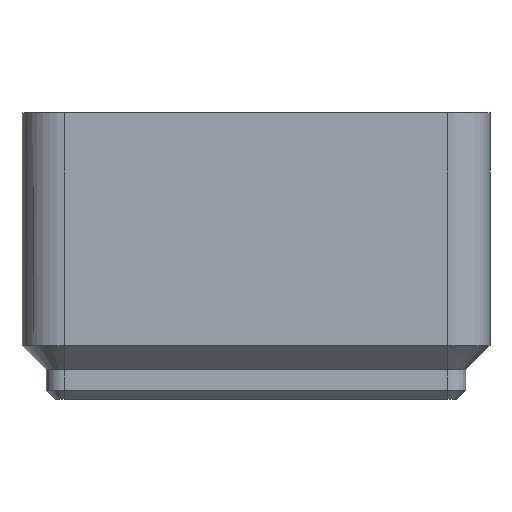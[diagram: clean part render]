
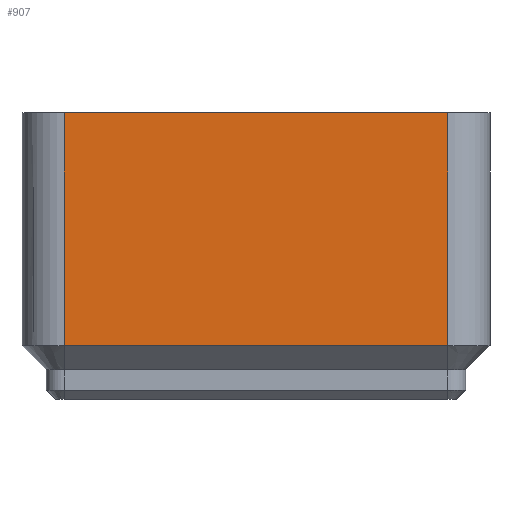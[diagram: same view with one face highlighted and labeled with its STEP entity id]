
A CAD part, left-side view. The second image highlights one B-rep face of the part: STEP entity #907.
In plain terms, the highlighted planar face has unit normal (-1, 0, 0).
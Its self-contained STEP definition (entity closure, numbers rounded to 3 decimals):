
#100 = PLANE('',#101);
#101 = AXIS2_PLACEMENT_3D('',#102,#103,#104);
#102 = CARTESIAN_POINT('',(-19.675,-17.,3.675));
#103 = DIRECTION('',(0.707,0.,0.707)
  );
#104 = DIRECTION('',(0.,-1.,0.));
#307 = VERTEX_POINT('',#308);
#308 = CARTESIAN_POINT('',(-20.75,-17.,4.75));
#332 = EDGE_CURVE('',#307,#333,#335,.T.);
#333 = VERTEX_POINT('',#334);
#334 = CARTESIAN_POINT('',(-20.75,17.,4.75));
#335 = SURFACE_CURVE('',#336,(#340,#347),.PCURVE_S1.);
#336 = LINE('',#337,#338);
#337 = CARTESIAN_POINT('',(-20.75,-17.,4.75));
#338 = VECTOR('',#339,1.);
#339 = DIRECTION('',(0.,1.,0.));
#340 = PCURVE('',#100,#341);
#341 = DEFINITIONAL_REPRESENTATION('',(#342),#346);
#342 = LINE('',#343,#344);
#343 = CARTESIAN_POINT('',(-0.,-1.52));
#344 = VECTOR('',#345,1.);
#345 = DIRECTION('',(-1.,0.));
#346 = ( GEOMETRIC_REPRESENTATION_CONTEXT(2) 
PARAMETRIC_REPRESENTATION_CONTEXT() REPRESENTATION_CONTEXT('2D SPACE',''
  ) );
#347 = PCURVE('',#348,#353);
#348 = PLANE('',#349);
#349 = AXIS2_PLACEMENT_3D('',#350,#351,#352);
#350 = CARTESIAN_POINT('',(-20.75,-17.,2.6));
#351 = DIRECTION('',(-1.,0.,0.));
#352 = DIRECTION('',(0.,1.,0.));
#353 = DEFINITIONAL_REPRESENTATION('',(#354),#358);
#354 = LINE('',#355,#356);
#355 = CARTESIAN_POINT('',(0.,-2.15));
#356 = VECTOR('',#357,1.);
#357 = DIRECTION('',(1.,0.));
#358 = ( GEOMETRIC_REPRESENTATION_CONTEXT(2) 
PARAMETRIC_REPRESENTATION_CONTEXT() REPRESENTATION_CONTEXT('2D SPACE',''
  ) );
#737 = CYLINDRICAL_SURFACE('',#738,3.75);
#738 = AXIS2_PLACEMENT_3D('',#739,#740,#741);
#739 = CARTESIAN_POINT('',(-17.,17.,2.6));
#740 = DIRECTION('',(0.,0.,-1.));
#741 = DIRECTION('',(-1.,0.,0.));
#894 = CYLINDRICAL_SURFACE('',#895,3.75);
#895 = AXIS2_PLACEMENT_3D('',#896,#897,#898);
#896 = CARTESIAN_POINT('',(-17.,-17.,2.6));
#897 = DIRECTION('',(0.,0.,-1.));
#898 = DIRECTION('',(-1.,0.,0.));
#907 = ADVANCED_FACE('',(#908),#348,.T.);
#908 = FACE_BOUND('',#909,.T.);
#909 = EDGE_LOOP('',(#910,#911,#934,#962));
#910 = ORIENTED_EDGE('',*,*,#332,.F.);
#911 = ORIENTED_EDGE('',*,*,#912,.T.);
#912 = EDGE_CURVE('',#307,#913,#915,.T.);
#913 = VERTEX_POINT('',#914);
#914 = CARTESIAN_POINT('',(-20.75,-17.,25.4));
#915 = SURFACE_CURVE('',#916,(#920,#927),.PCURVE_S1.);
#916 = LINE('',#917,#918);
#917 = CARTESIAN_POINT('',(-20.75,-17.,4.75));
#918 = VECTOR('',#919,1.);
#919 = DIRECTION('',(0.,0.,1.));
#920 = PCURVE('',#348,#921);
#921 = DEFINITIONAL_REPRESENTATION('',(#922),#926);
#922 = LINE('',#923,#924);
#923 = CARTESIAN_POINT('',(0.,-2.15));
#924 = VECTOR('',#925,1.);
#925 = DIRECTION('',(0.,-1.));
#926 = ( GEOMETRIC_REPRESENTATION_CONTEXT(2) 
PARAMETRIC_REPRESENTATION_CONTEXT() REPRESENTATION_CONTEXT('2D SPACE',''
  ) );
#927 = PCURVE('',#894,#928);
#928 = DEFINITIONAL_REPRESENTATION('',(#929),#933);
#929 = LINE('',#930,#931);
#930 = CARTESIAN_POINT('',(6.283,-2.15));
#931 = VECTOR('',#932,1.);
#932 = DIRECTION('',(0.,-1.));
#933 = ( GEOMETRIC_REPRESENTATION_CONTEXT(2) 
PARAMETRIC_REPRESENTATION_CONTEXT() REPRESENTATION_CONTEXT('2D SPACE',''
  ) );
#934 = ORIENTED_EDGE('',*,*,#935,.T.);
#935 = EDGE_CURVE('',#913,#936,#938,.T.);
#936 = VERTEX_POINT('',#937);
#937 = CARTESIAN_POINT('',(-20.75,17.,25.4));
#938 = SURFACE_CURVE('',#939,(#943,#950),.PCURVE_S1.);
#939 = LINE('',#940,#941);
#940 = CARTESIAN_POINT('',(-20.75,0.,25.4));
#941 = VECTOR('',#942,1.);
#942 = DIRECTION('',(0.,1.,0.));
#943 = PCURVE('',#348,#944);
#944 = DEFINITIONAL_REPRESENTATION('',(#945),#949);
#945 = LINE('',#946,#947);
#946 = CARTESIAN_POINT('',(17.,-22.8));
#947 = VECTOR('',#948,1.);
#948 = DIRECTION('',(1.,0.));
#949 = ( GEOMETRIC_REPRESENTATION_CONTEXT(2) 
PARAMETRIC_REPRESENTATION_CONTEXT() REPRESENTATION_CONTEXT('2D SPACE',''
  ) );
#950 = PCURVE('',#951,#956);
#951 = PLANE('',#952);
#952 = AXIS2_PLACEMENT_3D('',#953,#954,#955);
#953 = CARTESIAN_POINT('',(0.,0.,25.4)
  );
#954 = DIRECTION('',(0.,0.,1.));
#955 = DIRECTION('',(1.,0.,-0.));
#956 = DEFINITIONAL_REPRESENTATION('',(#957),#961);
#957 = LINE('',#958,#959);
#958 = CARTESIAN_POINT('',(-20.75,0.));
#959 = VECTOR('',#960,1.);
#960 = DIRECTION('',(0.,1.));
#961 = ( GEOMETRIC_REPRESENTATION_CONTEXT(2) 
PARAMETRIC_REPRESENTATION_CONTEXT() REPRESENTATION_CONTEXT('2D SPACE',''
  ) );
#962 = ORIENTED_EDGE('',*,*,#963,.T.);
#963 = EDGE_CURVE('',#936,#333,#964,.T.);
#964 = SURFACE_CURVE('',#965,(#969,#976),.PCURVE_S1.);
#965 = LINE('',#966,#967);
#966 = CARTESIAN_POINT('',(-20.75,17.,25.4));
#967 = VECTOR('',#968,1.);
#968 = DIRECTION('',(0.,0.,-1.));
#969 = PCURVE('',#348,#970);
#970 = DEFINITIONAL_REPRESENTATION('',(#971),#975);
#971 = LINE('',#972,#973);
#972 = CARTESIAN_POINT('',(34.,-22.8));
#973 = VECTOR('',#974,1.);
#974 = DIRECTION('',(0.,1.));
#975 = ( GEOMETRIC_REPRESENTATION_CONTEXT(2) 
PARAMETRIC_REPRESENTATION_CONTEXT() REPRESENTATION_CONTEXT('2D SPACE',''
  ) );
#976 = PCURVE('',#737,#977);
#977 = DEFINITIONAL_REPRESENTATION('',(#978),#982);
#978 = LINE('',#979,#980);
#979 = CARTESIAN_POINT('',(0.,-22.8));
#980 = VECTOR('',#981,1.);
#981 = DIRECTION('',(-0.,1.));
#982 = ( GEOMETRIC_REPRESENTATION_CONTEXT(2) 
PARAMETRIC_REPRESENTATION_CONTEXT() REPRESENTATION_CONTEXT('2D SPACE',''
  ) );
